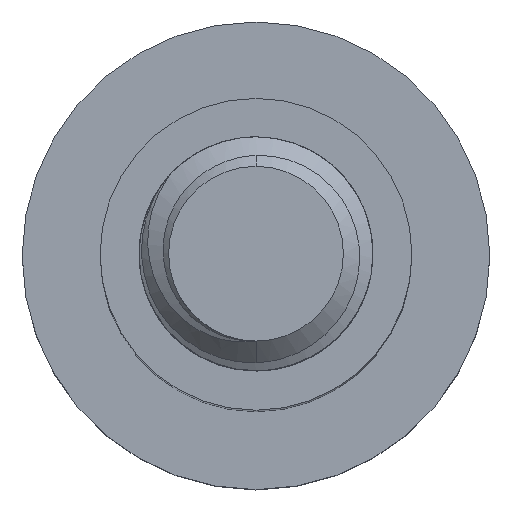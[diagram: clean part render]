
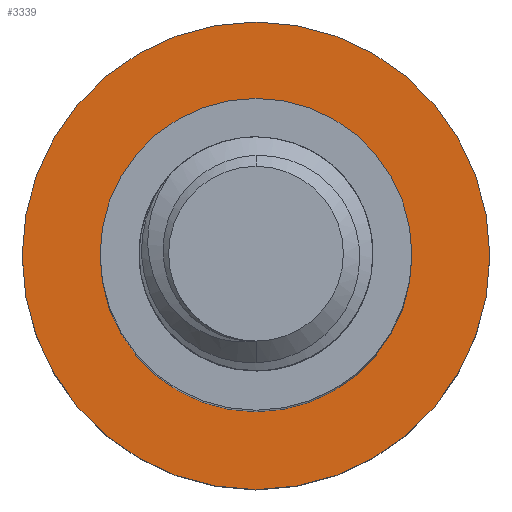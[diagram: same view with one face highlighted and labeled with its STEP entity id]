
A CAD part, top view. The second image highlights one B-rep face of the part: STEP entity #3339.
In plain terms, the highlighted planar face has unit normal (0, 0, 1).
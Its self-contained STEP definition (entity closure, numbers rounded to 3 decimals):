
#323 = CARTESIAN_POINT ( 'NONE',  ( 8., 0., -45. ) ) ;
#546 = CARTESIAN_POINT ( 'NONE',  ( 0., 0., -45. ) ) ;
#603 = VERTEX_POINT ( 'NONE', #3121 ) ;
#675 = CARTESIAN_POINT ( 'NONE',  ( 0., 0., -45. ) ) ;
#760 = CARTESIAN_POINT ( 'NONE',  ( 0., 0., -45. ) ) ;
#787 = ORIENTED_EDGE ( 'NONE', *, *, #4017, .F. ) ;
#1114 = DIRECTION ( 'NONE',  ( -1., 0., 0. ) ) ;
#1132 = DIRECTION ( 'NONE',  ( 0., 0., -1. ) ) ;
#1147 = DIRECTION ( 'NONE',  ( 0., 0., -1. ) ) ;
#1186 = DIRECTION ( 'NONE',  ( 0., 0., -1. ) ) ;
#1299 = EDGE_CURVE ( 'NONE', #603, #2494, #3607, .T. ) ;
#1318 = DIRECTION ( 'NONE',  ( -1., 0., 0. ) ) ;
#1321 = ORIENTED_EDGE ( 'NONE', *, *, #2642, .T. ) ;
#1546 = DIRECTION ( 'NONE',  ( -1., 0., 0. ) ) ;
#1860 = AXIS2_PLACEMENT_3D ( 'NONE', #5087, #3093, #1114 ) ;
#1951 = CIRCLE ( 'NONE', #4887, 12. ) ;
#2110 = CIRCLE ( 'NONE', #5128, 8. ) ;
#2237 = FACE_BOUND ( 'NONE', #2295, .T. ) ;
#2295 = EDGE_LOOP ( 'NONE', ( #4460, #1321 ) ) ;
#2494 = VERTEX_POINT ( 'NONE', #3874 ) ;
#2615 = AXIS2_PLACEMENT_3D ( 'NONE', #675, #1132, #4747 ) ;
#2642 = EDGE_CURVE ( 'NONE', #4671, #3633, #4796, .T. ) ;
#2746 = PLANE ( 'NONE',  #2615 ) ;
#3093 = DIRECTION ( 'NONE',  ( 0., 0., -1. ) ) ;
#3121 = CARTESIAN_POINT ( 'NONE',  ( 12., 0., -45. ) ) ;
#3138 = FACE_OUTER_BOUND ( 'NONE', #3516, .T. ) ;
#3339 = ADVANCED_FACE ( 'NONE', ( #2237, #3138 ), #2746, .F. ) ;
#3435 = CARTESIAN_POINT ( 'NONE',  ( -8., 0., -45. ) ) ;
#3516 = EDGE_LOOP ( 'NONE', ( #4114, #787 ) ) ;
#3607 = CIRCLE ( 'NONE', #1860, 12. ) ;
#3633 = VERTEX_POINT ( 'NONE', #3435 ) ;
#3713 = DIRECTION ( 'NONE',  ( 0., 0., -1. ) ) ;
#3874 = CARTESIAN_POINT ( 'NONE',  ( -12., 0., -45. ) ) ;
#4017 = EDGE_CURVE ( 'NONE', #2494, #603, #1951, .T. ) ;
#4114 = ORIENTED_EDGE ( 'NONE', *, *, #1299, .F. ) ;
#4308 = CARTESIAN_POINT ( 'NONE',  ( 0., 0., -45. ) ) ;
#4323 = DIRECTION ( 'NONE',  ( -1., 0., 0. ) ) ;
#4460 = ORIENTED_EDGE ( 'NONE', *, *, #4665, .T. ) ;
#4665 = EDGE_CURVE ( 'NONE', #3633, #4671, #2110, .T. ) ;
#4671 = VERTEX_POINT ( 'NONE', #323 ) ;
#4710 = AXIS2_PLACEMENT_3D ( 'NONE', #760, #1186, #4323 ) ;
#4747 = DIRECTION ( 'NONE',  ( -1., 0., 0. ) ) ;
#4796 = CIRCLE ( 'NONE', #4710, 8. ) ;
#4887 = AXIS2_PLACEMENT_3D ( 'NONE', #546, #3713, #1318 ) ;
#5087 = CARTESIAN_POINT ( 'NONE',  ( 0., 0., -45. ) ) ;
#5128 = AXIS2_PLACEMENT_3D ( 'NONE', #4308, #1147, #1546 ) ;
